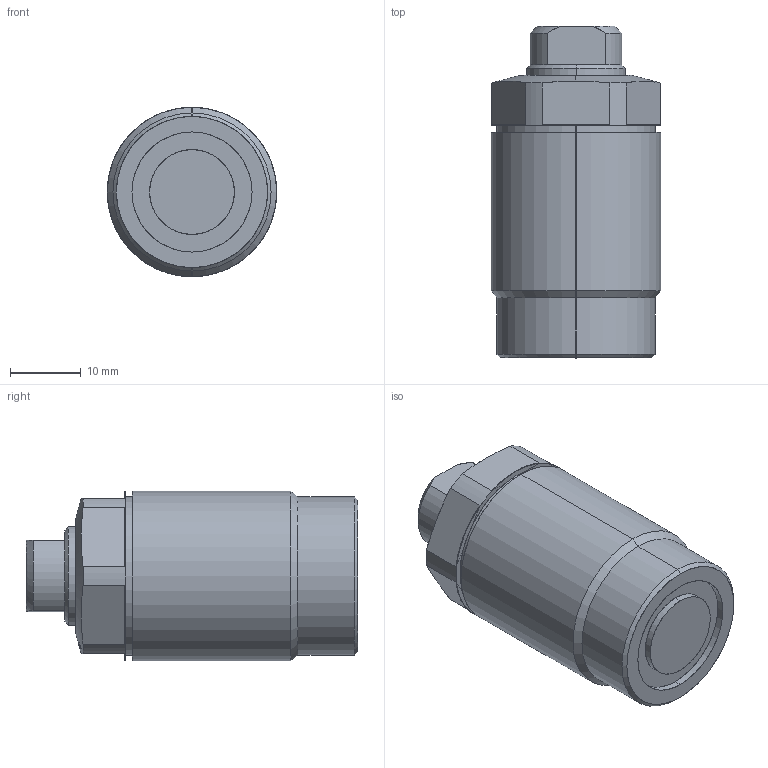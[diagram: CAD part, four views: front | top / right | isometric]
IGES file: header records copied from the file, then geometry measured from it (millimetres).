
Start section: SolidWorks IGES file using analytic representation for surfaces
Global section: file name: D:\karuppas\Clasp\3D model\Thread body cylinder\T03C-M242- M threaded pusher\T03C-M242-M threaded pusher.IGS; native system: SolidWorks 2017; preprocessor: SolidWorks 2017; author: pc; date: 220709.230737; units: millimetre
Bounding box: 24 x 47 x 24 mm (x, y, z)
Surface area: 6328.6 mm2 (no closed solid volume)
Topology: 0 solids, 0 shells, 250 faces, 2701 edges, 2699 vertices
Faces by surface type: bspline 217, revolution 33
